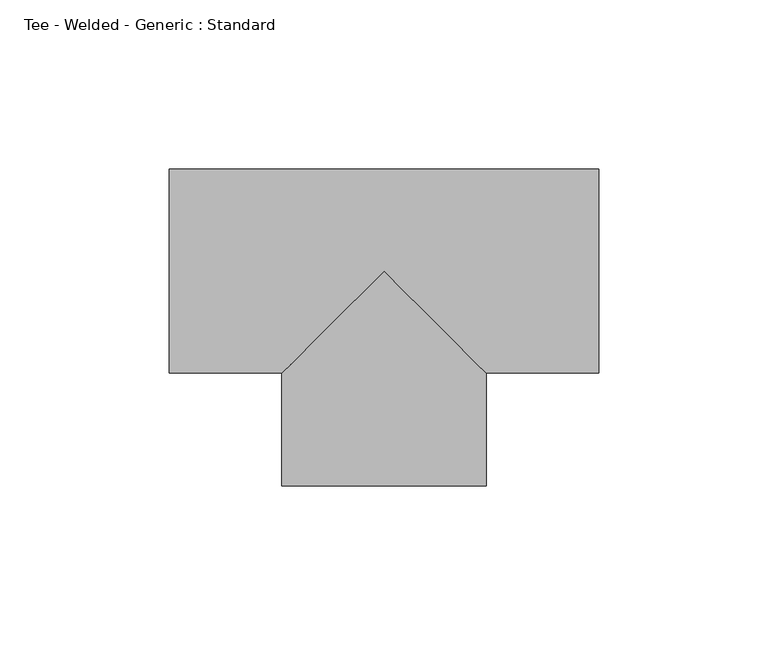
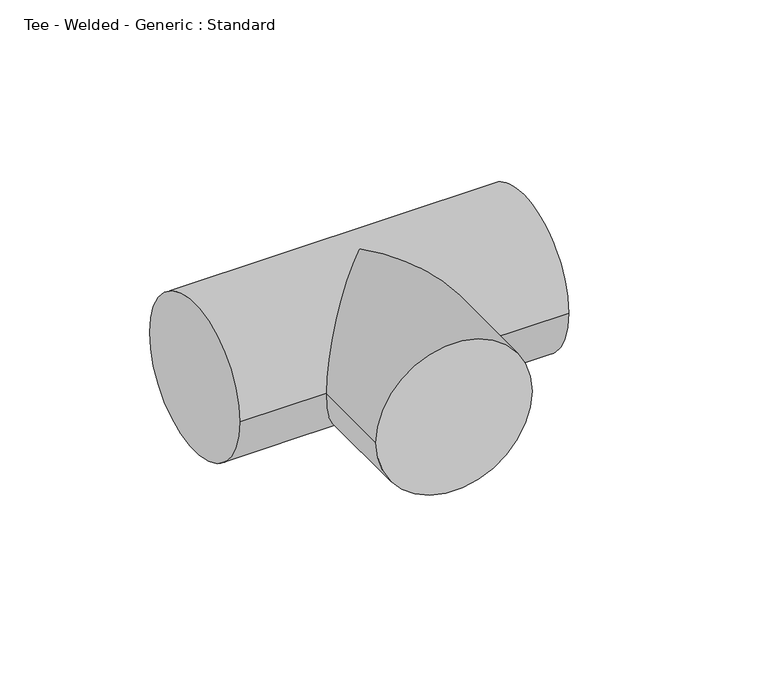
"""IFC4 building model written with IfcOpenShell, lengths in millimetres: pipe fitting geometry, Tee - Welded - Generic : Standard."""

from ifc_helpers import new_model, si_unit, frame, origin, place, context, project, spatial, circle_curve, ellipse_curve, source, transform, mapped, element, save
from ifc_brep_helpers import plane_surface, cylinder_surface, advanced_brep


def tee_welded_generic_standard_547aa237(model_context):
    return source(origin(), model_context, "Body", "AdvancedBrep", [
        advanced_brep(
        [(-63.5, -30.1625, 0.0), (-63.5, 30.1625, 0.0), (63.5, -30.1625, 0.0), (63.5, 30.1625, 0.0), (-30.1566796, -30.1625, 0.0), (0.0, 0.0, 30.1625), (30.1683215, -30.1625, 0.0), (0.0, 0.0, -30.1625), (-30.1502448, -63.5058198, 0.0), (30.1747541, -63.4941779, 0.0)],
        [
            (0, 1, circle_curve(frame((-63.5, 0.0, 0.0), z_axis=(-1.0, 0.0, 0.0), x_axis=(0.0, 1.0, 0.0)), 30.1625)),
            (1, 0, circle_curve(frame((-63.5, 0.0, 0.0), z_axis=(-1.0, 0.0, 0.0), x_axis=(0.0, 1.0, 0.0)), 30.1625)),
            (2, 3, circle_curve(frame((63.5, 0.0, 0.0), z_axis=(1.0, 0.0, 0.0), x_axis=(0.0, 1.0, 0.0)), 30.1625)),
            (3, 2, circle_curve(frame((63.5, 0.0, 0.0), z_axis=(1.0, 0.0, 0.0), x_axis=(0.0, 1.0, 0.0)), 30.1625)),
            (0, 4),
            (4, 5, ellipse_curve(frame((0.0, 0.0, 0.0), z_axis=(-0.7071750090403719, 0.7070385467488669, 0.0), x_axis=(-0.7070385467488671, -0.7071750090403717, 0.0)), 42.6521011, 30.1625)),
            (5, 6, ellipse_curve(frame((0.0, 0.0, 0.0), z_axis=(0.7070385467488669, 0.707175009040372, 0.0), x_axis=(-0.7071750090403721, 0.7070385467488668, 0.0)), 42.6603332, 30.1625)),
            (6, 2),
            (3, 1),
            (6, 7, ellipse_curve(frame((0.0, 0.0, 0.0), z_axis=(0.7070385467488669, 0.707175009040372, 0.0), x_axis=(-0.7071750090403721, 0.7070385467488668, 0.0)), 42.6603332, 30.1625)),
            (7, 4, ellipse_curve(frame((0.0, 0.0, 0.0), z_axis=(-0.7071750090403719, 0.7070385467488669, 0.0), x_axis=(-0.7070385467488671, -0.7071750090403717, 0.0)), 42.6521011, 30.1625)),
            (8, 9, circle_curve(frame((0.0122547, -63.4999988, 0.0), z_axis=(0.00019298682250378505, -0.999999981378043, 0.0), x_axis=(0.999999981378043, 0.00019298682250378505, 0.0)), 30.1625)),
            (9, 8, circle_curve(frame((0.0122547, -63.4999988, 0.0), z_axis=(0.00019298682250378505, -0.999999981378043, 0.0), x_axis=(0.999999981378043, 0.00019298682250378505, 0.0)), 30.1625)),
            (9, 6),
            (4, 8),
        ],
        [
            plane_surface(frame((-63.5, 0.0, 0.0), z_axis=(-1.0, 0.0, 0.0), x_axis=(0.0, 0.0, 1.0))),
            plane_surface(frame((63.5, 0.0, 0.0), z_axis=(1.0, 0.0, 0.0), x_axis=(0.0, 0.0, 1.0))),
            cylinder_surface(frame((-63.5, 0.0, 0.0), z_axis=(-1.0, 0.0, 0.0), x_axis=(0.0, 1.0, 0.0)), 30.1625),
            plane_surface(frame((0.0122547, -63.4999988, 0.0), z_axis=(0.00019298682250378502, -0.999999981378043, 0.0), x_axis=(0.0, 0.0, 1.0))),
            cylinder_surface(frame((0.0, 0.0, 0.0), z_axis=(-0.00019298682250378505, 0.999999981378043, 0.0), x_axis=(0.999999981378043, 0.00019298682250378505, 0.0)), 30.1625),
        ],
        [
            (0, [[1, 2]]),
            (1, [[3, 4]]),
            (2, [[-1, 5, 6, 7, 8, -4, 9]]),
            (2, [[-2, -9, -3, -8, 10, 11, -5]]),
            (3, [[12, 13]]),
            (4, [[-13, 14, -7, -6, 15]]),
            (4, [[-12, -15, -11, -10, -14]]),
        ],
    ),
    ])


if __name__ == "__main__":
    model = new_model("IFC4")
    model_context = context("Model", 3, world=origin())
    ifc_project = project(units=[si_unit("LENGTHUNIT", "METRE", prefix="MILLI")], contexts=[model_context])
    site = spatial("IfcSite", under=ifc_project)
    building = spatial("IfcBuilding", under=site)
    placement = place(None, origin())
    tee_welded_generic_standard_shape = tee_welded_generic_standard_547aa237(model_context)
    element("IfcPipeFitting", 1, ObjectType="Tee - Welded - Generic : Standard", at=placement, inside=building, context=model_context, shape_type="MappedRepresentation", body=[
        mapped(tee_welded_generic_standard_shape, transform((0.0, 0.0, 0.0), x_axis=(1.0, 0.0, 0.0), y_axis=(0.0, 1.0, 0.0), z_axis=(0.0, 0.0, 1.0))),
    ])
    save(model, "model.ifc")
